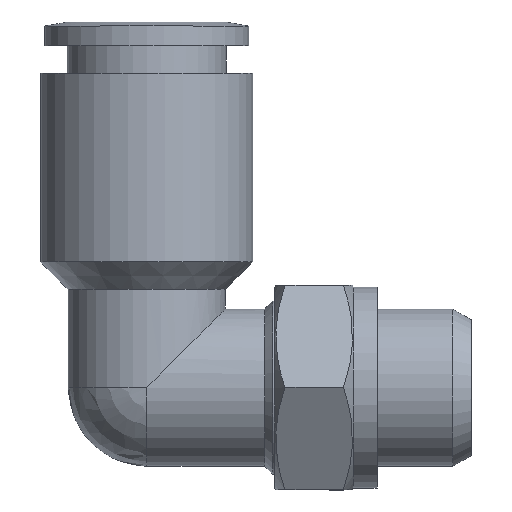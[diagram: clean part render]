
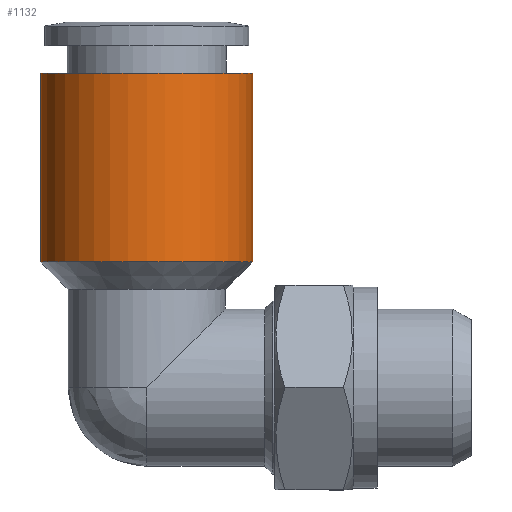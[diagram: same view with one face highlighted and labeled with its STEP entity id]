
A CAD part, top view. The second image highlights one B-rep face of the part: STEP entity #1132.
In plain terms, the highlighted cylindrical face has radius 6.75 mm (diameter 13.5 mm), a full revolution.
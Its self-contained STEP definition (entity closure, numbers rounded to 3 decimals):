
#1098=CARTESIAN_POINT('',(-6.75,8.,0.0));
#1099=VERTEX_POINT('',#1098);
#1100=CARTESIAN_POINT('',(0.0,8.,0.0));
#1101=DIRECTION('',(0.0,1.0,0.0));
#1102=DIRECTION('',(-1.0,0.0,0.0));
#1103=AXIS2_PLACEMENT_3D('',#1100,#1101,#1102);
#1104=CIRCLE('',#1103,6.75);
#1105=EDGE_CURVE('',#1099,#1099,#1104,.T.);
#1113=CARTESIAN_POINT('',(0.0,14.0,0.0));
#1114=DIRECTION('',(0.0,1.0,0.0));
#1115=DIRECTION('',(-1.0,0.0,0.0));
#1116=AXIS2_PLACEMENT_3D('',#1113,#1114,#1115);
#1117=CYLINDRICAL_SURFACE('',#1116,6.75);
#1118=CARTESIAN_POINT('',(-6.75,20.0,0.0));
#1119=VERTEX_POINT('',#1118);
#1120=CARTESIAN_POINT('',(0.0,20.0,0.0));
#1121=DIRECTION('',(0.0,1.0,0.0));
#1122=DIRECTION('',(-1.0,0.0,0.0));
#1123=AXIS2_PLACEMENT_3D('',#1120,#1121,#1122);
#1124=CIRCLE('',#1123,6.75);
#1125=EDGE_CURVE('',#1119,#1119,#1124,.T.);
#1126=ORIENTED_EDGE('',*,*,#1125,.F.);
#1127=EDGE_LOOP('',(#1126));
#1128=FACE_OUTER_BOUND('',#1127,.T.);
#1129=ORIENTED_EDGE('',*,*,#1105,.T.);
#1130=EDGE_LOOP('',(#1129));
#1131=FACE_BOUND('',#1130,.T.);
#1132=ADVANCED_FACE('',(#1128,#1131),#1117,.T.);
